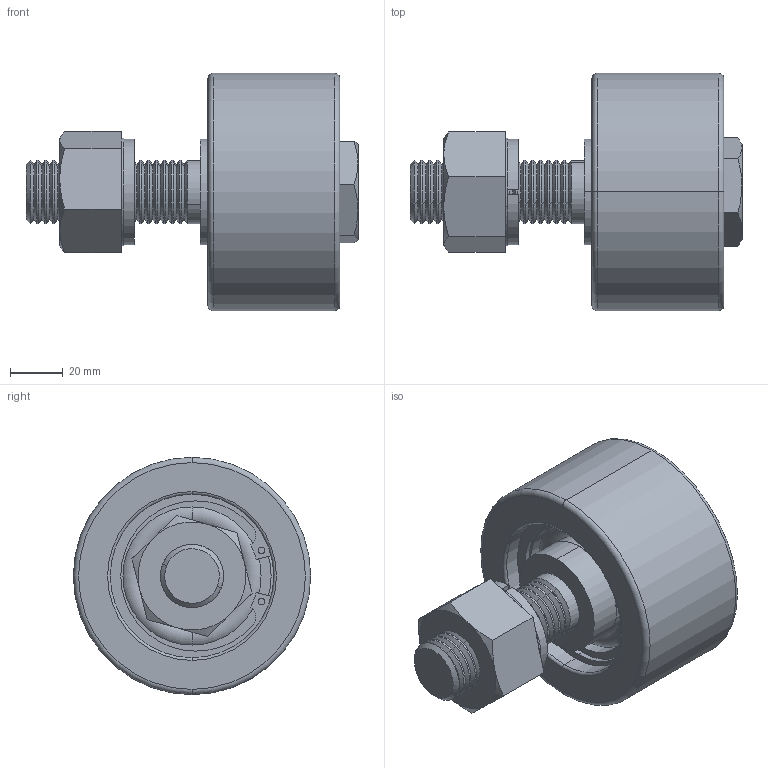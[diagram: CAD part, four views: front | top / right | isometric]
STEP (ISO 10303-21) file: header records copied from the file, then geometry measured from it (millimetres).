
FILE_DESCRIPTION (( 'STEP AP203' ), '1' );
FILE_NAME ('CAMST90X50M24.STEP', '2019-11-10T03:06:48', ( '' ), ( '' ), 'SwSTEP 2.0', 'SolidWorks 2013', '' );
FILE_SCHEMA (( 'CONFIG_CONTROL_DESIGN' ));
Length unit declared in the file: millimetre
Products named in the file (1): CAMST90X50M24
Bounding box: 125.9 x 90 x 90 mm (x, y, z)
Volume: 340741.2 mm3; surface area: 92529.6 mm2
Topology: 9 solids, 9 shells, 318 faces, 762 edges, 472 vertices
Faces by surface type: cylinder 130, cone 98, plane 56, torus 34
Entity records: 9603 total; most frequent: DIRECTION 1830, CARTESIAN_POINT 1773, ORIENTED_EDGE 1524, AXIS2_PLACEMENT_3D 777, EDGE_CURVE 762, VERTEX_POINT 472, CIRCLE 458, EDGE_LOOP 346
